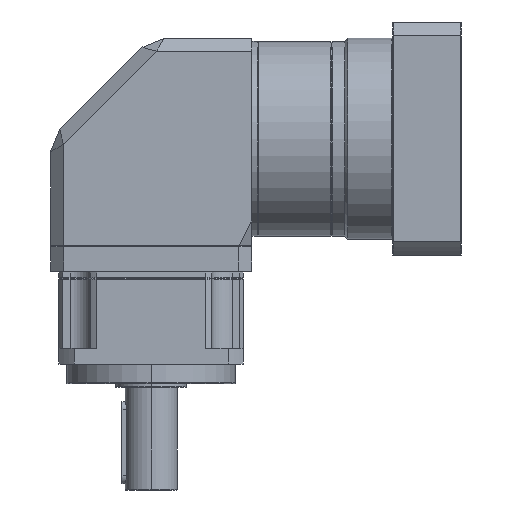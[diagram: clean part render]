
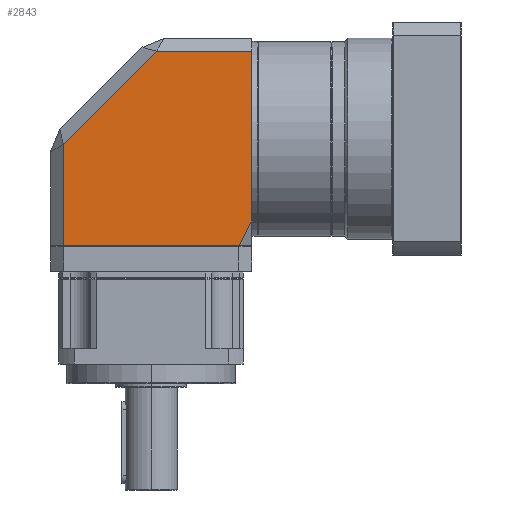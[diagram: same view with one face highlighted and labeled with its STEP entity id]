
A CAD part, left-side view. The second image highlights one B-rep face of the part: STEP entity #2843.
In plain terms, the highlighted planar face has unit normal (-1, 0, 0).
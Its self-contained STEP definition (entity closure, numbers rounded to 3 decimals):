
#160 = ORIENTED_EDGE ( 'NONE', *, *, #1773, .T. ) ;
#170 = CARTESIAN_POINT ( 'NONE',  ( -77.5, 67.5, 169.358 ) ) ;
#232 = DIRECTION ( 'NONE',  ( 1., 0., 0. ) ) ;
#344 = FACE_OUTER_BOUND ( 'NONE', #5358, .T. ) ;
#578 = VECTOR ( 'NONE', #5363, 1000. ) ;
#909 = CARTESIAN_POINT ( 'NONE',  ( -77.5, 67.5, 91.5 ) ) ;
#924 = ORIENTED_EDGE ( 'NONE', *, *, #2637, .F. ) ;
#1355 = DIRECTION ( 'NONE',  ( 0., 0., -1. ) ) ;
#1454 = VECTOR ( 'NONE', #9194, 1000. ) ;
#1501 = CARTESIAN_POINT ( 'NONE',  ( -77.5, -67.75, 91.5 ) ) ;
#1545 = LINE ( 'NONE', #7471, #578 ) ;
#1610 = CARTESIAN_POINT ( 'NONE',  ( -77.5, -4.142, 241. ) ) ;
#1737 = LINE ( 'NONE', #2753, #2736 ) ;
#1773 = EDGE_CURVE ( 'NONE', #2174, #8790, #8147, .T. ) ;
#2174 = VERTEX_POINT ( 'NONE', #170 ) ;
#2248 = VERTEX_POINT ( 'NONE', #1610 ) ;
#2637 = EDGE_CURVE ( 'NONE', #3694, #4589, #6458, .T. ) ;
#2736 = VECTOR ( 'NONE', #1355, 1000. ) ;
#2753 = CARTESIAN_POINT ( 'NONE',  ( -77.5, -77.5, 251. ) ) ;
#2843 = ADVANCED_FACE ( 'NONE', ( #344 ), #3707, .F. ) ;
#3109 = AXIS2_PLACEMENT_3D ( 'NONE', #8021, #232, #8685 ) ;
#3334 = VECTOR ( 'NONE', #5013, 1000. ) ;
#3489 = ORIENTED_EDGE ( 'NONE', *, *, #6995, .F. ) ;
#3694 = VERTEX_POINT ( 'NONE', #7340 ) ;
#3707 = PLANE ( 'NONE',  #3109 ) ;
#4219 = CARTESIAN_POINT ( 'NONE',  ( -77.5, -133.5, 223. ) ) ;
#4267 = EDGE_CURVE ( 'NONE', #2248, #2174, #1545, .T. ) ;
#4301 = VECTOR ( 'NONE', #7507, 1000. ) ;
#4394 = ORIENTED_EDGE ( 'NONE', *, *, #4636, .T. ) ;
#4589 = VERTEX_POINT ( 'NONE', #1501 ) ;
#4636 = EDGE_CURVE ( 'NONE', #8790, #4589, #5098, .T. ) ;
#4980 = CARTESIAN_POINT ( 'NONE',  ( -77.5, -77.5, 91.5 ) ) ;
#5013 = DIRECTION ( 'NONE',  ( 0., -1., 0. ) ) ;
#5098 = LINE ( 'NONE', #4980, #3334 ) ;
#5358 = EDGE_LOOP ( 'NONE', ( #160, #4394, #924, #3489, #8446, #8727 ) ) ;
#5363 = DIRECTION ( 'NONE',  ( 0., 0.707, -0.707 ) ) ;
#5904 = DIRECTION ( 'NONE',  ( 0., 0., -1. ) ) ;
#5981 = VERTEX_POINT ( 'NONE', #6225 ) ;
#6216 = EDGE_CURVE ( 'NONE', #5981, #2248, #6964, .T. ) ;
#6225 = CARTESIAN_POINT ( 'NONE',  ( -77.5, -77.5, 241. ) ) ;
#6458 = LINE ( 'NONE', #4219, #1454 ) ;
#6964 = LINE ( 'NONE', #8202, #4301 ) ;
#6995 = EDGE_CURVE ( 'NONE', #5981, #3694, #1737, .T. ) ;
#7340 = CARTESIAN_POINT ( 'NONE',  ( -77.5, -77.5, 111. ) ) ;
#7471 = CARTESIAN_POINT ( 'NONE',  ( -77.5, 70.429, 166.429 ) ) ;
#7507 = DIRECTION ( 'NONE',  ( 0., 1., 0. ) ) ;
#8021 = CARTESIAN_POINT ( 'NONE',  ( -77.5, -77.5, 251. ) ) ;
#8126 = CARTESIAN_POINT ( 'NONE',  ( -77.5, 67.5, 251. ) ) ;
#8147 = LINE ( 'NONE', #8126, #9058 ) ;
#8202 = CARTESIAN_POINT ( 'NONE',  ( -77.5, 0., 241. ) ) ;
#8446 = ORIENTED_EDGE ( 'NONE', *, *, #6216, .T. ) ;
#8685 = DIRECTION ( 'NONE',  ( 0., 0., -1. ) ) ;
#8727 = ORIENTED_EDGE ( 'NONE', *, *, #4267, .T. ) ;
#8790 = VERTEX_POINT ( 'NONE', #909 ) ;
#9058 = VECTOR ( 'NONE', #5904, 1000. ) ;
#9194 = DIRECTION ( 'NONE',  ( 0., 0.447, -0.894 ) ) ;
